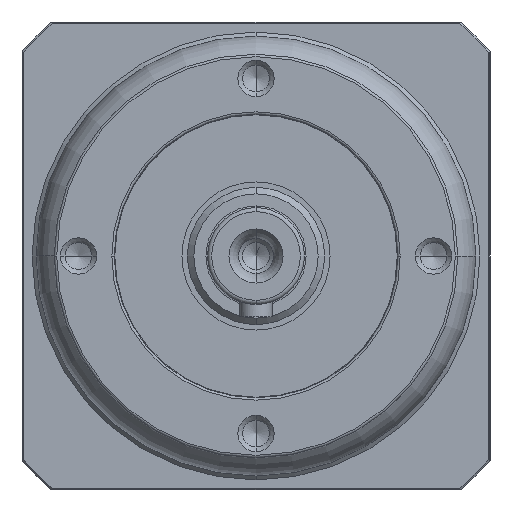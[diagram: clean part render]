
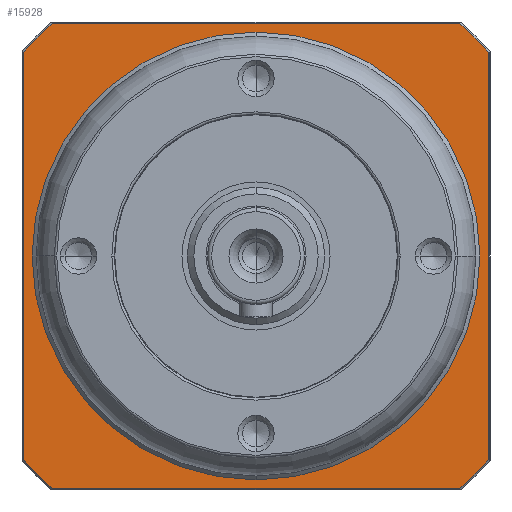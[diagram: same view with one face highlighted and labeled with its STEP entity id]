
A CAD part, left-side view. The second image highlights one B-rep face of the part: STEP entity #15928.
In plain terms, the highlighted planar face has unit normal (-1, 0, 0) as drawn and (0, 0, -1) by its records, which use the part's own axes.
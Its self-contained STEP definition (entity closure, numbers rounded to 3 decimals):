
#14693=CARTESIAN_POINT('',(0.,0.,
2.));
#14694=DIRECTION('',(0.,0.,-1.));
#14695=DIRECTION('',(0.,-1.,0.));
#14696=AXIS2_PLACEMENT_3D('',#14693,#14694,#14695);
#14698=CARTESIAN_POINT('',(0.,0.,
2.));
#14699=DIRECTION('',(0.,0.,-1.));
#14700=DIRECTION('',(0.,1.,0.));
#14701=AXIS2_PLACEMENT_3D('',#14698,#14699,#14700);
#14703=CARTESIAN_POINT('',(0.,0.,2.));
#14704=DIRECTION('',(0.,0.,1.));
#14705=DIRECTION('',(-0.752,-0.659,0.));
#14706=AXIS2_PLACEMENT_3D('',#14703,#14704,#14705);
#14708=DIRECTION('',(1.,0.,0.));
#14709=VECTOR('',#14708,50.496);
#14710=CARTESIAN_POINT('',(-25.248,-28.8,
2.));
#14711=LINE('',#14710,#14709);
#14712=CARTESIAN_POINT('',(0.,0.,2.));
#14713=DIRECTION('',(0.,0.,1.));
#14714=DIRECTION('',(0.659,-0.752,0.));
#14715=AXIS2_PLACEMENT_3D('',#14712,#14713,#14714);
#14717=DIRECTION('',(0.,1.,0.));
#14718=VECTOR('',#14717,50.496);
#14719=CARTESIAN_POINT('',(28.8,-25.248,
2.));
#14720=LINE('',#14719,#14718);
#14721=CARTESIAN_POINT('',(0.,0.,2.));
#14722=DIRECTION('',(0.,0.,1.));
#14723=DIRECTION('',(0.752,0.659,0.));
#14724=AXIS2_PLACEMENT_3D('',#14721,#14722,#14723);
#14726=DIRECTION('',(-1.,0.,0.));
#14727=VECTOR('',#14726,50.496);
#14728=CARTESIAN_POINT('',(25.248,28.8,2.));
#14729=LINE('',#14728,#14727);
#14730=CARTESIAN_POINT('',(0.,0.,2.));
#14731=DIRECTION('',(0.,0.,1.));
#14732=DIRECTION('',(-0.659,0.752,0.));
#14733=AXIS2_PLACEMENT_3D('',#14730,#14731,#14732);
#14735=DIRECTION('',(0.,-1.,0.));
#14736=VECTOR('',#14735,50.496);
#14737=CARTESIAN_POINT('',(-28.8,25.248,
2.));
#14738=LINE('',#14737,#14736);
#15575=CARTESIAN_POINT('',(0.,-27.75,2.));
#15576=CARTESIAN_POINT('',(0.,27.75,2.));
#15577=VERTEX_POINT('',#15575);
#15578=VERTEX_POINT('',#15576);
#15639=CARTESIAN_POINT('',(-28.8,-25.248,2.));
#15640=CARTESIAN_POINT('',(-25.248,-28.8,2.));
#15641=VERTEX_POINT('',#15639);
#15642=VERTEX_POINT('',#15640);
#15647=CARTESIAN_POINT('',(25.248,-28.8,
2.));
#15648=VERTEX_POINT('',#15647);
#15651=CARTESIAN_POINT('',(28.8,-25.248,2.));
#15652=VERTEX_POINT('',#15651);
#15655=CARTESIAN_POINT('',(28.8,25.248,2.));
#15656=VERTEX_POINT('',#15655);
#15659=CARTESIAN_POINT('',(25.248,28.8,2.));
#15660=VERTEX_POINT('',#15659);
#15663=CARTESIAN_POINT('',(-25.248,28.8,
2.));
#15664=VERTEX_POINT('',#15663);
#15669=CARTESIAN_POINT('',(-28.8,25.248,2.));
#15670=VERTEX_POINT('',#15669);
#15900=CARTESIAN_POINT('',(0.,0.,2.));
#15901=DIRECTION('',(0.,0.,1.));
#15902=DIRECTION('',(0.,1.,0.));
#15903=AXIS2_PLACEMENT_3D('',#15900,#15901,#15902);
#15904=PLANE('',#15903);
#15906=ORIENTED_EDGE('',*,*,#15905,.T.);
#15908=ORIENTED_EDGE('',*,*,#15907,.T.);
#15910=ORIENTED_EDGE('',*,*,#15909,.T.);
#15912=ORIENTED_EDGE('',*,*,#15911,.T.);
#15914=ORIENTED_EDGE('',*,*,#15913,.T.);
#15916=ORIENTED_EDGE('',*,*,#15915,.T.);
#15918=ORIENTED_EDGE('',*,*,#15917,.T.);
#15920=ORIENTED_EDGE('',*,*,#15919,.T.);
#15921=EDGE_LOOP('',(#15906,#15908,#15910,#15912,#15914,#15916,#15918,#15920));
#15922=FACE_OUTER_BOUND('',#15921,.F.);
#15924=ORIENTED_EDGE('',*,*,#15923,.T.);
#15925=ORIENTED_EDGE('',*,*,#15890,.T.);
#15926=EDGE_LOOP('',(#15924,#15925));
#15927=FACE_BOUND('',#15926,.F.);
#15928=ADVANCED_FACE('',(#15922,#15927),#15904,.F.);
#14697=CIRCLE('',#14696,27.75);
#14702=CIRCLE('',#14701,27.75);
#14707=CIRCLE('',#14706,38.3);
#14716=CIRCLE('',#14715,38.3);
#14725=CIRCLE('',#14724,38.3);
#14734=CIRCLE('',#14733,38.3);
#15890=EDGE_CURVE('',#15578,#15577,#14702,.T.);
#15905=EDGE_CURVE('',#15641,#15642,#14707,.T.);
#15907=EDGE_CURVE('',#15642,#15648,#14711,.T.);
#15909=EDGE_CURVE('',#15648,#15652,#14716,.T.);
#15911=EDGE_CURVE('',#15652,#15656,#14720,.T.);
#15913=EDGE_CURVE('',#15656,#15660,#14725,.T.);
#15915=EDGE_CURVE('',#15660,#15664,#14729,.T.);
#15917=EDGE_CURVE('',#15664,#15670,#14734,.T.);
#15919=EDGE_CURVE('',#15670,#15641,#14738,.T.);
#15923=EDGE_CURVE('',#15577,#15578,#14697,.T.);
